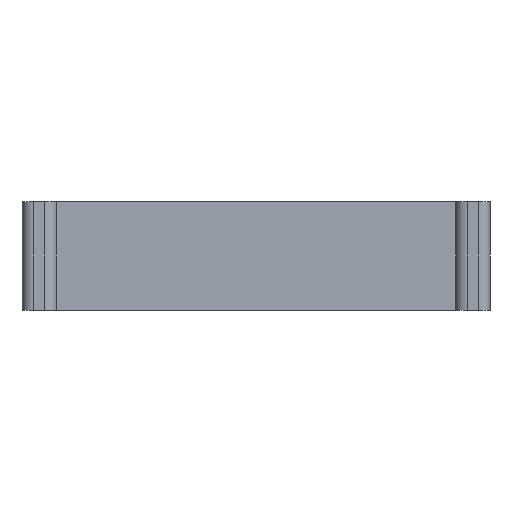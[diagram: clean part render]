
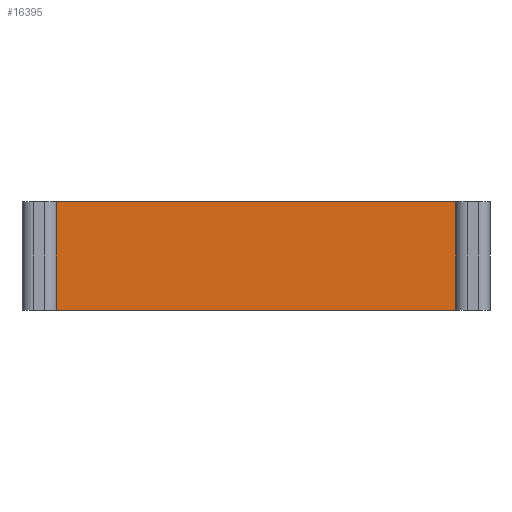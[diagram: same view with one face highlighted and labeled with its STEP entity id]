
A CAD part, left-side view. The second image highlights one B-rep face of the part: STEP entity #16395.
In plain terms, the highlighted planar face has unit normal (-1, 0, 0).
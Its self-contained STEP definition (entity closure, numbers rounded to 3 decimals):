
#203 = EDGE_CURVE ( 'NONE', #361, #7912, #12257, .T. ) ;
#361 = VERTEX_POINT ( 'NONE', #1193 ) ;
#501 = DIRECTION ( 'NONE',  ( 0., 0., 1. ) ) ;
#1193 = CARTESIAN_POINT ( 'NONE',  ( -29.5, 35., 1. ) ) ;
#1412 = DIRECTION ( 'NONE',  ( 0., -1., 0. ) ) ;
#1712 = CARTESIAN_POINT ( 'NONE',  ( -29.5, -38., 1. ) ) ;
#2641 = LINE ( 'NONE', #8201, #7281 ) ;
#3069 = CARTESIAN_POINT ( 'NONE',  ( -29.5, -35., 1. ) ) ;
#3106 = FACE_OUTER_BOUND ( 'NONE', #11657, .T. ) ;
#3343 = LINE ( 'NONE', #6124, #5027 ) ;
#3993 = VERTEX_POINT ( 'NONE', #16153 ) ;
#4329 = CARTESIAN_POINT ( 'NONE',  ( -29.5, 35., 20. ) ) ;
#5027 = VECTOR ( 'NONE', #11355, 1000. ) ;
#6124 = CARTESIAN_POINT ( 'NONE',  ( -29.5, 35., -7.485 ) ) ;
#7281 = VECTOR ( 'NONE', #1412, 1000. ) ;
#7912 = VERTEX_POINT ( 'NONE', #3069 ) ;
#8201 = CARTESIAN_POINT ( 'NONE',  ( -29.5, -38., 20. ) ) ;
#8465 = AXIS2_PLACEMENT_3D ( 'NONE', #1712, #16172, #501 ) ;
#9250 = LINE ( 'NONE', #17195, #10708 ) ;
#9342 = DIRECTION ( 'NONE',  ( 0., 0., 1. ) ) ;
#9747 = ORIENTED_EDGE ( 'NONE', *, *, #12622, .F. ) ;
#10269 = ORIENTED_EDGE ( 'NONE', *, *, #14285, .F. ) ;
#10708 = VECTOR ( 'NONE', #9342, 1000. ) ;
#10957 = CARTESIAN_POINT ( 'NONE',  ( -29.5, -38., 1. ) ) ;
#11355 = DIRECTION ( 'NONE',  ( 0., 0., 1. ) ) ;
#11657 = EDGE_LOOP ( 'NONE', ( #15604, #10269, #9747, #13961 ) ) ;
#12257 = LINE ( 'NONE', #10957, #12967 ) ;
#12622 = EDGE_CURVE ( 'NONE', #361, #15317, #3343, .T. ) ;
#12967 = VECTOR ( 'NONE', #16275, 1000. ) ;
#13961 = ORIENTED_EDGE ( 'NONE', *, *, #203, .T. ) ;
#14285 = EDGE_CURVE ( 'NONE', #15317, #3993, #2641, .T. ) ;
#15317 = VERTEX_POINT ( 'NONE', #4329 ) ;
#15604 = ORIENTED_EDGE ( 'NONE', *, *, #17163, .T. ) ;
#16153 = CARTESIAN_POINT ( 'NONE',  ( -29.5, -35., 20. ) ) ;
#16172 = DIRECTION ( 'NONE',  ( -1., 0., 0. ) ) ;
#16275 = DIRECTION ( 'NONE',  ( 0., -1., 0. ) ) ;
#16352 = PLANE ( 'NONE',  #8465 ) ;
#16395 = ADVANCED_FACE ( 'NONE', ( #3106 ), #16352, .T. ) ;
#17163 = EDGE_CURVE ( 'NONE', #7912, #3993, #9250, .T. ) ;
#17195 = CARTESIAN_POINT ( 'NONE',  ( -29.5, -35., -7.485 ) ) ;
